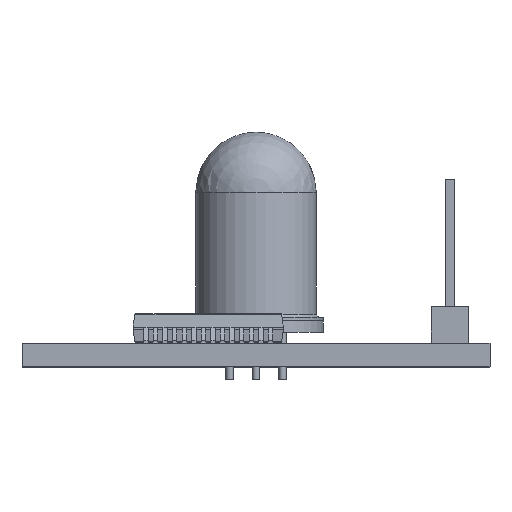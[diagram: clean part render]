
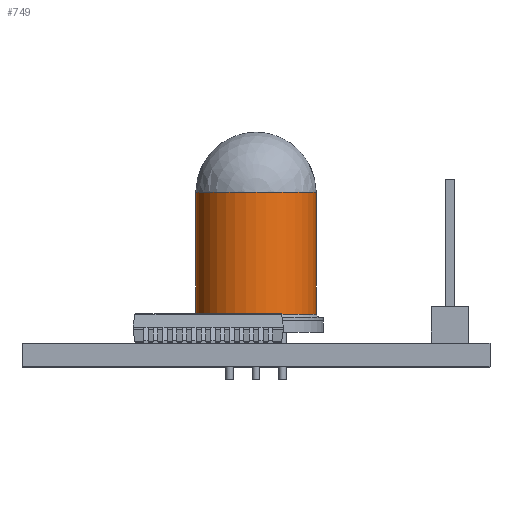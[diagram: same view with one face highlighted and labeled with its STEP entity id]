
A CAD part, top view. The second image highlights one B-rep face of the part: STEP entity #749.
In plain terms, the highlighted cylindrical face has radius 4.096 mm (diameter 8.191 mm), a full revolution.
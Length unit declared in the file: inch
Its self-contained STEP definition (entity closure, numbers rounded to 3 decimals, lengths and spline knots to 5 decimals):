
#111 = FACE_OUTER_BOUND ( 'NONE', #15612, .T. ) ;
#749 = ADVANCED_FACE ( 'NONE', ( #14768, #111 ), #16977, .T. ) ;
#862 = ORIENTED_EDGE ( 'NONE', *, *, #6728, .T. ) ;
#2034 = DIRECTION ( 'NONE',  ( 0., -1., 0. ) ) ;
#4384 = CARTESIAN_POINT ( 'NONE',  ( -8.32002, 0.06544, 4.39328 ) ) ;
#5653 = CARTESIAN_POINT ( 'NONE',  ( -8.32002, 0.39109, 4.39328 ) ) ;
#6728 = EDGE_CURVE ( 'NONE', #17553, #17553, #14663, .T. ) ;
#8459 = DIRECTION ( 'NONE',  ( 0., 0., 1. ) ) ;
#10659 = EDGE_LOOP ( 'NONE', ( #862 ) ) ;
#11789 = AXIS2_PLACEMENT_3D ( 'NONE', #4384, #15886, #8459 ) ;
#13026 = DIRECTION ( 'NONE',  ( 0., 0., 1. ) ) ;
#13513 = DIRECTION ( 'NONE',  ( 0., -1., 0. ) ) ;
#13745 = AXIS2_PLACEMENT_3D ( 'NONE', #15025, #2034, #17101 ) ;
#14663 = CIRCLE ( 'NONE', #23277, 0.16125 ) ;
#14768 = FACE_OUTER_BOUND ( 'NONE', #10659, .T. ) ;
#14929 = CIRCLE ( 'NONE', #11789, 0.16125 ) ;
#14959 = VERTEX_POINT ( 'NONE', #20105 ) ;
#15025 = CARTESIAN_POINT ( 'NONE',  ( -8.32002, 0.04734, 4.39328 ) ) ;
#15612 = EDGE_LOOP ( 'NONE', ( #20627 ) ) ;
#15886 = DIRECTION ( 'NONE',  ( 0., -1., 0. ) ) ;
#16977 = CYLINDRICAL_SURFACE ( 'NONE', #13745, 0.16125 ) ;
#17101 = DIRECTION ( 'NONE',  ( 0., 0., 1. ) ) ;
#17553 = VERTEX_POINT ( 'NONE', #20968 ) ;
#20105 = CARTESIAN_POINT ( 'NONE',  ( -8.32002, 0.06544, 4.55453 ) ) ;
#20627 = ORIENTED_EDGE ( 'NONE', *, *, #22812, .F. ) ;
#20968 = CARTESIAN_POINT ( 'NONE',  ( -8.32002, 0.39109, 4.55453 ) ) ;
#22812 = EDGE_CURVE ( 'NONE', #14959, #14959, #14929, .T. ) ;
#23277 = AXIS2_PLACEMENT_3D ( 'NONE', #5653, #13513, #13026 ) ;
